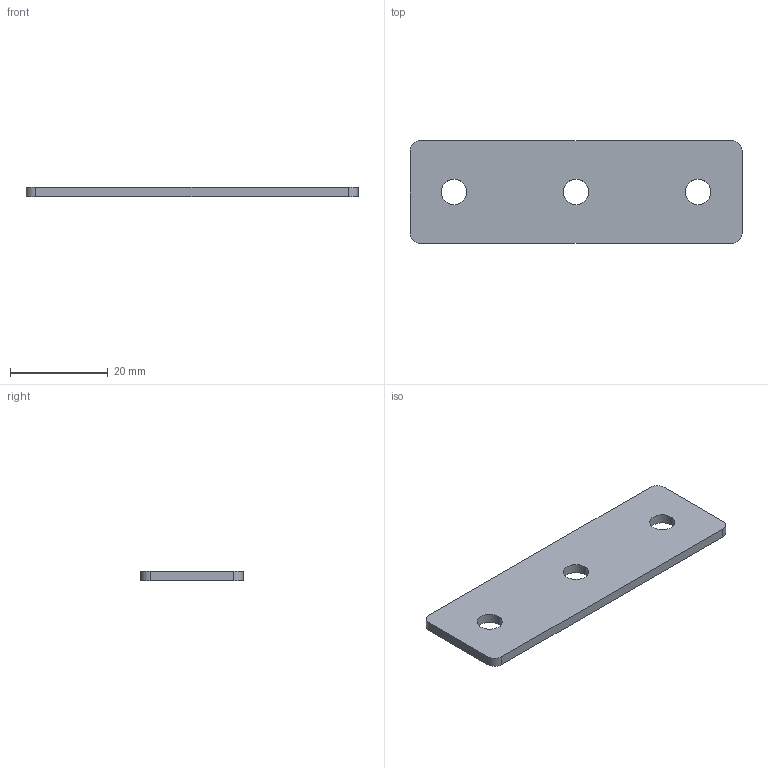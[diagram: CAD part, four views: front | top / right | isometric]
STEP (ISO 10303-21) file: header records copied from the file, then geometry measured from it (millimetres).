
FILE_DESCRIPTION (( 'STEP AP214' ), '1' );
FILE_NAME ('Ï-3-25.STEP', '2021-10-15T10:27:00', ( 'Home' ), ( '' ), 'SwSTEP 2.0', 'SolidWorks 2020', '' );
FILE_SCHEMA (( 'AUTOMOTIVE_DESIGN' ));
Length unit declared in the file: millimetre
Products named in the file (1): ﾏ-3-25
Bounding box: 68 x 21 x 2 mm (x, y, z)
Volume: 2721.7 mm3; surface area: 3168.9 mm2
Topology: 1 solids, 1 shells, 16 faces, 42 edges, 28 vertices
Faces by surface type: cylinder 10, plane 6
Entity records: 552 total; most frequent: DIRECTION 96, CARTESIAN_POINT 87, ORIENTED_EDGE 84, EDGE_CURVE 42, AXIS2_PLACEMENT_3D 37, VERTEX_POINT 28, VECTOR 22, EDGE_LOOP 22
